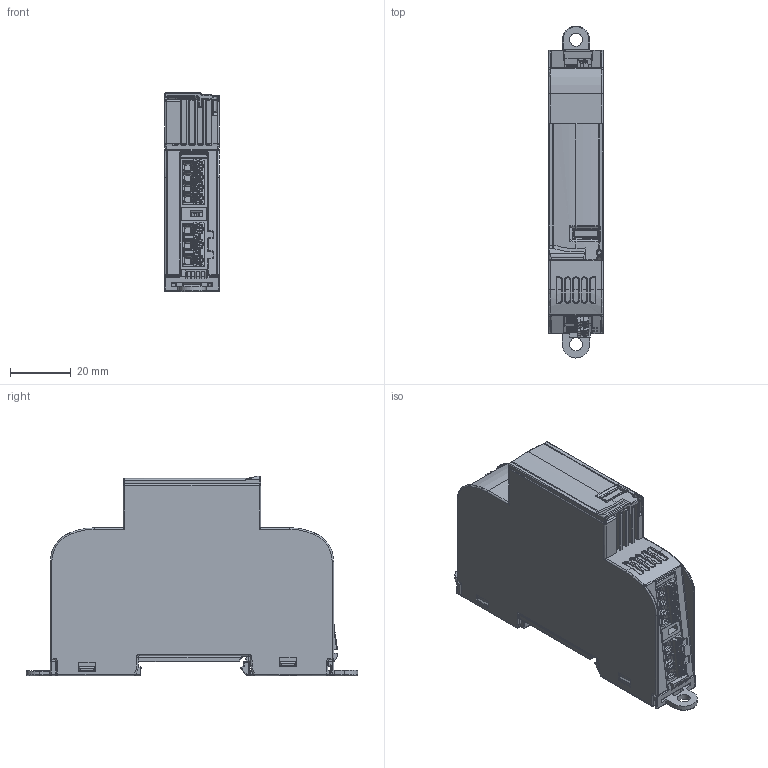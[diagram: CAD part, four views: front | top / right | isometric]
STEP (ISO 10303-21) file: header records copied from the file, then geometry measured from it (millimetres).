
FILE_DESCRIPTION (( 'STEP AP203' ), '1' );
FILE_NAME ('MRCD410R-2_w_SC.STEP', '2025-11-06T11:03:31', ( 'Administrator' ), ( '' ), 'SwSTEP 2.0', 'SolidWorks 2024', '' );
FILE_SCHEMA (( 'CONFIG_CONTROL_DESIGN' ));
Length unit declared in the file: millimetre
Products named in the file (1): MRCD410R-2_w_SC
Bounding box: 18 x 109 x 65.38 mm (x, y, z)
Volume: 83928.5 mm3; surface area: 21283.7 mm2
Topology: 2 solids, 14 shells, 3342 faces, 8590 edges, 5198 vertices
Faces by surface type: plane 1196, cylinder 1088, bspline 634, torus 269, sphere 132, cone 23
Entity records: 144303 total; most frequent: CARTESIAN_POINT 69186, ORIENTED_EDGE 16932, DIRECTION 14224, EDGE_CURVE 8466, VERTEX_POINT 5194, AXIS2_PLACEMENT_3D 5022, VECTOR 4180, LINE 4180
